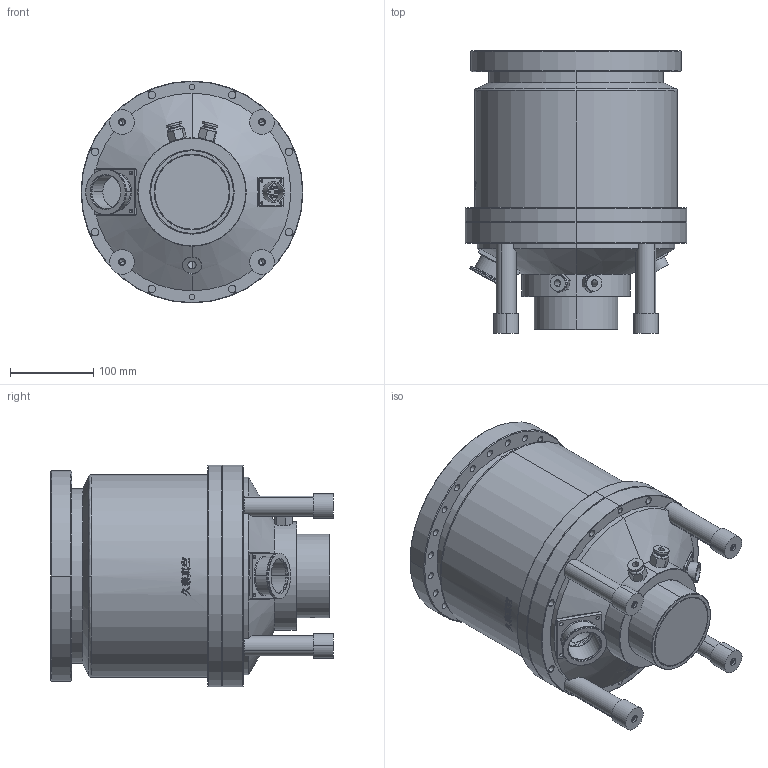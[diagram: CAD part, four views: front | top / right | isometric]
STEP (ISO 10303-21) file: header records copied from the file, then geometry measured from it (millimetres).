
FILE_DESCRIPTION (( 'STEP AP203' ), '1' );
FILE_NAME ('CF1300DZ-00W.STEP', '2025-03-29T07:07:36', ( 'User' ), ( 'China' ), 'SwSTEP 2.0', 'SolidWorks 2016', '' );
FILE_SCHEMA (( 'CONFIG_CONTROL_DESIGN' ));
Length unit declared in the file: millimetre
Products named in the file (11): JTFB1300Z-01W_2; JTFB1300Z-02W_2; JTFB1300D-18-01-01-01｣ﾗ_1; JTFB1300D-18-01-00｣ﾗ_1; JTFB1300D-18-00｣ﾗ_1; SJJTB-600-02A_2; SJJTB-600-15_2; 600蝶杶_2; 萇埭諉芛_2; 阨郲_2; CF1300DZ-00W
Assembly tree (17 placements, depth 4):
  CF1300DZ-00W
    JTFB1300Z-01W_2
    JTFB1300Z-02W_2
    JTFB1300D-18-00｣ﾗ_1
      JTFB1300D-18-01-00｣ﾗ_1
        JTFB1300D-18-01-01-01｣ﾗ_1
    SJJTB-600-02A_2
    SJJTB-600-15_2  x4
    600蝶杶_2  x4
    萇埭諉芛_2
    阨郲_2  x2
Bounding box: 266 x 338.75 x 266 mm (x, y, z)
Volume: 10683996.2 mm3; surface area: 716526.8 mm2
Topology: 14 solids, 19 shells, 820 faces, 2050 edges, 1302 vertices
Faces by surface type: cylinder 317, plane 188, bspline 167, cone 148
Entity records: 47169 total; most frequent: CARTESIAN_POINT 30038, ORIENTED_EDGE 3452, DIRECTION 2957, EDGE_CURVE 1730, AXIS2_PLACEMENT_3D 1241, VERTEX_POINT 1130, EDGE_LOOP 867, FACE_OUTER_BOUND 694
